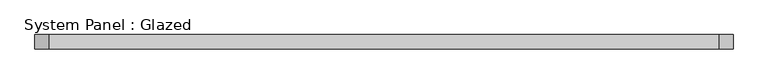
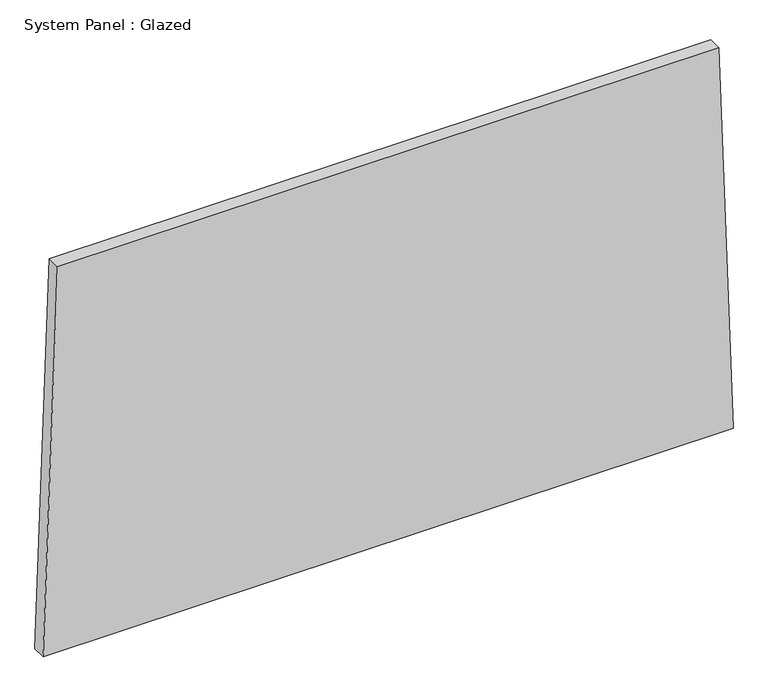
"""IFC4 building model written with IfcOpenShell, lengths in millimetres: plate geometry, System Panel : Glazed."""

import ifcopenshell
import ifcopenshell.guid

model = None  # the IFC model being written
_history = None  # IfcOwnerHistory: only IFC2X3 demands one
_inside = {}  # id of a spatial element -> (the spatial element, [elements in it])
_under = {}  # id of a project, library or spatial element -> (it, [spatial elements below it])
_declared = {}  # id of a project -> (the project, [libraries it declares])
_typed = {}  # id of a type object -> (the type object, [elements of that type])
_made_of = {}  # id of a material, layer set ... -> (it, [elements and type objects made of it])


def new_model(schema):
    """Start an empty IFC model of exactly this schema.

    Asked for "IFC4X3", IfcOpenShell would pick the latest addendum, in which some entities
    have other attributes; the version numbers below select the first issue.
    IFC2X3 requires an IfcOwnerHistory on every rooted entity: one is made here for all.
    """
    global model, _history
    if schema == "IFC4X3":
        model = ifcopenshell.file(schema_version=(4, 3, 0, 0))
    else:
        model = ifcopenshell.file(schema=schema)
    _inside.clear()
    _under.clear()
    _declared.clear()
    _typed.clear()
    _made_of.clear()
    _history = None
    if model.schema == "IFC2X3":
        org = make("IfcOrganization", Name="unknown")
        user = make(
            "IfcPersonAndOrganization",
            ThePerson=make("IfcPerson", FamilyName="unknown"),
            TheOrganization=org,
        )
        app = make(
            "IfcApplication",
            ApplicationDeveloper=org,
            Version="unknown",
            ApplicationFullName="unknown",
            ApplicationIdentifier="unknown",
        )
        _history = make(
            "IfcOwnerHistory",
            OwningUser=user,
            OwningApplication=app,
            ChangeAction="ADDED",
            CreationDate=0,
        )
    return model


def make(cls, **values):
    """One entity of the class cls with the attributes given. An attribute that is None is left unset."""
    return model.create_entity(
        cls, **{name: value for name, value in values.items() if value is not None}
    )


def rooted(cls, **values):
    """An entity with a GlobalId (a new one), such as an element, a storey or a relation."""
    return make(cls, GlobalId=ifcopenshell.guid.new(), OwnerHistory=_history, **values)


def si_unit(unit_type, name, prefix=None):
    """IfcSIUnit, for example si_unit("LENGTHUNIT", "METRE", prefix="MILLI")."""
    return make("IfcSIUnit", UnitType=unit_type, Prefix=prefix, Name=name)


def assignment(units):
    """IfcUnitAssignment: the units of a project."""
    return None if units is None else make("IfcUnitAssignment", Units=units)


def point(xyz):
    """IfcCartesianPoint."""
    return None if xyz is None else make("IfcCartesianPoint", Coordinates=xyz)


def direction(xyz):
    """IfcDirection."""
    return None if xyz is None else make("IfcDirection", DirectionRatios=xyz)


def frame(location, z_axis=None, x_axis=None):
    """IfcAxis2Placement3D, a coordinate frame: its origin and axes. An axis left out is left unset."""
    return make(
        "IfcAxis2Placement3D",
        Location=point(location),
        Axis=direction(z_axis),
        RefDirection=direction(x_axis),
    )


def origin():
    """The frame at (0, 0, 0) with its axes left unset."""
    return frame((0.0, 0.0, 0.0))


def place(relative_to, where):
    """IfcLocalPlacement: puts the frame where relative to a parent placement (None: the world)."""
    return make(
        "IfcLocalPlacement", PlacementRelTo=relative_to, RelativePlacement=where
    )


def context(
    kind, dimensions, precision=None, world=None, true_north=None, identifier=None
):
    """IfcGeometricRepresentationContext, for example the 3D "Model" context."""
    return make(
        "IfcGeometricRepresentationContext",
        ContextIdentifier=identifier,
        ContextType=kind,
        CoordinateSpaceDimension=dimensions,
        Precision=precision,
        WorldCoordinateSystem=world,
        TrueNorth=true_north,
    )


def project(units=None, contexts=None):
    """IfcProject with its units and contexts."""
    return rooted(
        "IfcProject",
        Name="project",
        RepresentationContexts=contexts,
        UnitsInContext=assignment(units),
    )


def spatial(cls, under=None, at=None, **own):
    """A site, building, storey or space (cls), placed at a placement, below another one or the project."""
    s = rooted(cls, ObjectPlacement=at, **own)
    if under is not None:
        _under.setdefault(under.id(), (under, []))[1].append(s)
    return s


def polyline(points):
    """IfcPolyline through the points."""
    return make("IfcPolyline", Points=[point(p) for p in points])


def outline(outer, holes=None, kind="AREA"):
    """IfcArbitraryClosedProfileDef: a profile drawn as a closed curve; with holes, ...WithVoids."""
    if holes is None:
        return make("IfcArbitraryClosedProfileDef", ProfileType=kind, OuterCurve=outer)
    return make(
        "IfcArbitraryProfileDefWithVoids",
        ProfileType=kind,
        OuterCurve=outer,
        InnerCurves=holes,
    )


def extrude(swept, where, along, depth):
    """IfcExtrudedAreaSolid: the profile swept, set in the frame where, extruded along a direction by depth."""
    return make(
        "IfcExtrudedAreaSolid",
        SweptArea=swept,
        Position=where,
        ExtrudedDirection=direction(along),
        Depth=depth,
    )


def shape(context_of_items, identifier, shape_type, items):
    """IfcShapeRepresentation: the items that make up one representation, for example the "Body"."""
    return make(
        "IfcShapeRepresentation",
        ContextOfItems=context_of_items,
        RepresentationIdentifier=identifier,
        RepresentationType=shape_type,
        Items=items,
    )


def source(mapping_origin, context_of_items, identifier, shape_type, items):
    """IfcRepresentationMap: a shape defined once, which mapped items show again and again."""
    return make(
        "IfcRepresentationMap",
        MappingOrigin=mapping_origin,
        MappedRepresentation=shape(context_of_items, identifier, shape_type, items),
    )


def transform(
    local_origin,
    x_axis=None,
    y_axis=None,
    z_axis=None,
    scale=None,
    scale2=None,
    scale3=None,
    uniform=True,
):
    """IfcCartesianTransformationOperator3D, or its non-uniform kind. x_axis, y_axis, z_axis: its Axis1, 2, 3."""
    if uniform:
        return make(
            "IfcCartesianTransformationOperator3D",
            Axis1=direction(x_axis),
            Axis2=direction(y_axis),
            LocalOrigin=point(local_origin),
            Scale=scale,
            Axis3=direction(z_axis),
        )
    return make(
        "IfcCartesianTransformationOperator3DnonUniform",
        Axis1=direction(x_axis),
        Axis2=direction(y_axis),
        LocalOrigin=point(local_origin),
        Scale=scale,
        Axis3=direction(z_axis),
        Scale2=scale2,
        Scale3=scale3,
    )


def mapped(mapping_source, mapping_target):
    """IfcMappedItem: shows the shape of a source again, moved by a transform."""
    return make(
        "IfcMappedItem", MappingSource=mapping_source, MappingTarget=mapping_target
    )


def made_of(thing, what):
    """Note that an element or type object is made of a material, layer set ...; save() writes the relation."""
    if what is not None:
        _made_of.setdefault(what.id(), (what, []))[1].append(thing)
    return thing


def element(
    cls,
    number,
    at=None,
    inside=None,
    cuts=None,
    type_object=None,
    material=None,
    context=None,
    identifier="Body",
    shape_type=None,
    held_by="IfcProductDefinitionShape",
    body=None,
    shapes=None,
    **own,
):
    """One element of the class cls, such as IfcWall. Its Tag is "e" and its number.

    at: its placement. inside: the storey or other place that contains it. cuts: it is an
    opening in that element (IfcRelVoidsElement). A single representation is given by context,
    identifier, shape_type and body (its items); several are given by shapes. held_by: the class
    of the entity that holds the representations. save() writes the other relations.
    """
    e = rooted(cls, Tag="e%d" % number, ObjectPlacement=at, **own)
    if body is not None:
        shapes = [shape(context, identifier, shape_type, body)]
    if shapes is not None:
        e.Representation = make(held_by, Representations=shapes)
    if inside is not None:
        _inside.setdefault(inside.id(), (inside, []))[1].append(e)
    if cuts is not None:
        rooted(
            "IfcRelVoidsElement", RelatingBuildingElement=cuts, RelatedOpeningElement=e
        )
    if type_object is not None:
        _typed.setdefault(type_object.id(), (type_object, []))[1].append(e)
    return made_of(e, material)


def aggregate(whole, parts):
    """IfcRelAggregates: a whole, such as a stair, and the parts it consists of."""
    return rooted("IfcRelAggregates", RelatingObject=whole, RelatedObjects=parts)


def save(model, path):
    """Write the relations noted so far, then the file.

    IfcRelAggregates (storeys below a building ...), IfcRelContainedInSpatialStructure (elements
    in a storey), IfcRelDefinesByType, IfcRelAssociatesMaterial and IfcRelDeclares: one each for
    every whole, place, type object, material and project.
    """
    for whole, parts in _under.values():
        aggregate(whole, parts)
    for where, things in _inside.values():
        rooted(
            "IfcRelContainedInSpatialStructure",
            RelatedElements=things,
            RelatingStructure=where,
        )
    for kind, things in _typed.values():
        rooted("IfcRelDefinesByType", RelatedObjects=things, RelatingType=kind)
    for what, things in _made_of.values():
        rooted("IfcRelAssociatesMaterial", RelatedObjects=things, RelatingMaterial=what)
    for by, libraries in _declared.values():
        rooted("IfcRelDeclares", RelatingContext=by, RelatedDefinitions=libraries)
    model.write(path)


def system_panel_glazed_e9365c18(model_context):
    return source(origin(), model_context, "Body", "SweptSolid", [
        extrude(outline(polyline([(0.0, -623.6769892), (0.0, 623.6769892), (736.1241476, 597.6497443), (736.1241476, -597.6497443), (0.0, -623.6769892)])), frame((0.0, -44.45, 0.0), z_axis=(0.0, 1.0, 0.0), x_axis=(0.0, 0.0, 1.0)), (0.0, 0.0, 1.0), 25.4),
    ])


if __name__ == "__main__":
    model = new_model("IFC4")
    model_context = context("Model", 3, world=origin())
    ifc_project = project(units=[si_unit("LENGTHUNIT", "METRE", prefix="MILLI")], contexts=[model_context])
    site = spatial("IfcSite", under=ifc_project)
    building = spatial("IfcBuilding", under=site)
    placement = place(None, origin())
    system_panel_glazed_shape = system_panel_glazed_e9365c18(model_context)
    element("IfcPlate", 1, ObjectType="System Panel : Glazed", at=placement, inside=building, context=model_context, shape_type="MappedRepresentation", body=[
        mapped(system_panel_glazed_shape, transform((0.0, 0.0, 0.0), x_axis=(1.0, 0.0, 0.0), y_axis=(0.0, 1.0, 0.0), z_axis=(0.0, 0.0, 1.0))),
    ])
    save(model, "model.ifc")
